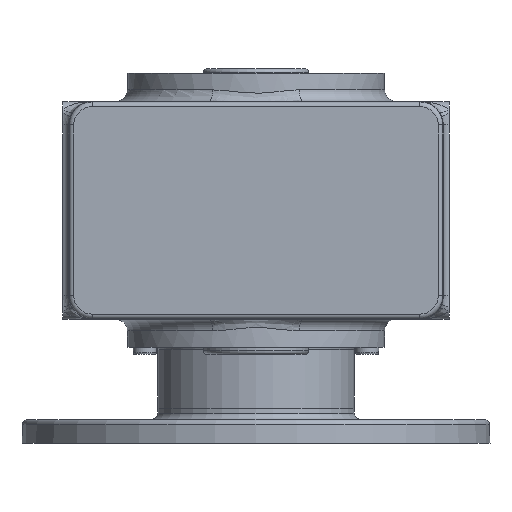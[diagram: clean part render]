
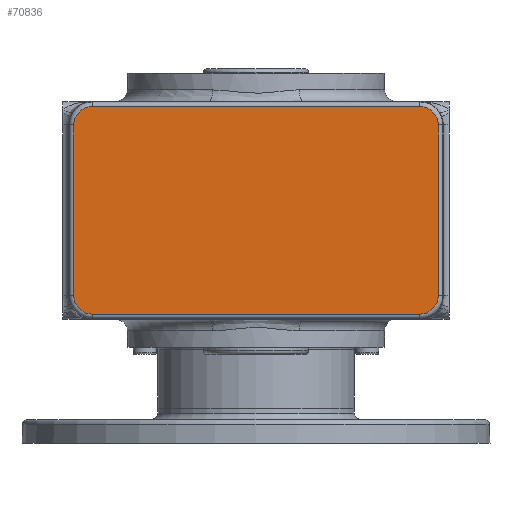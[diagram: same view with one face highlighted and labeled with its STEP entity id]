
A CAD part, front view. The second image highlights one B-rep face of the part: STEP entity #70836.
In plain terms, the highlighted planar face has unit normal (0, -1, 0).
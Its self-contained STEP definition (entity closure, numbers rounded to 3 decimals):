
#1410 = ORIENTED_EDGE ( 'NONE', *, *, #1411, .T. ) ;
#1411 = EDGE_CURVE ( 'NONE', #1473, #1470, #38919, .T. ) ;
#1412 = EDGE_CURVE ( 'NONE', #1479, #1473, #39125, .T. ) ;
#1422 = EDGE_CURVE ( 'NONE', #1470, #1423, #39092, .T. ) ;
#1423 = VERTEX_POINT ( 'NONE', #39073 ) ;
#1457 = ORIENTED_EDGE ( 'NONE', *, *, #1481, .T. ) ;
#1458 = ORIENTED_EDGE ( 'NONE', *, *, #1459, .T. ) ;
#1459 = EDGE_CURVE ( 'NONE', #1462, #1460, #45099, .T. ) ;
#1460 = VERTEX_POINT ( 'NONE', #45088 ) ;
#1461 = EDGE_CURVE ( 'NONE', #1469, #1462, #45080, .T. ) ;
#1462 = VERTEX_POINT ( 'NONE', #45073 ) ;
#1464 = ORIENTED_EDGE ( 'NONE', *, *, #1461, .T. ) ;
#1467 = ORIENTED_EDGE ( 'NONE', *, *, #1468, .T. ) ;
#1468 = EDGE_CURVE ( 'NONE', #1423, #1469, #45195, .T. ) ;
#1469 = VERTEX_POINT ( 'NONE', #45187 ) ;
#1470 = VERTEX_POINT ( 'NONE', #45184 ) ;
#1473 = VERTEX_POINT ( 'NONE', #45164 ) ;
#1474 = ORIENTED_EDGE ( 'NONE', *, *, #1412, .T. ) ;
#1475 = ORIENTED_EDGE ( 'NONE', *, *, #1476, .T. ) ;
#1476 = EDGE_CURVE ( 'NONE', #1483, #1479, #45153, .T. ) ;
#1479 = VERTEX_POINT ( 'NONE', #45139 ) ;
#1481 = EDGE_CURVE ( 'NONE', #1460, #1483, #45131, .T. ) ;
#1483 = VERTEX_POINT ( 'NONE', #45327 ) ;
#38910 = DIRECTION ( 'NONE',  ( 0., 0., -1. ) ) ;
#38913 = DIRECTION ( 'NONE',  ( 0., -1., 0. ) ) ;
#38916 = CARTESIAN_POINT ( 'NONE',  ( 70., -74.5, 10. ) ) ;
#38918 = AXIS2_PLACEMENT_3D ( 'NONE', #38916, #38913, #38910 ) ;
#38919 = CIRCLE ( 'NONE', #38918, 7.86 ) ;
#39073 = CARTESIAN_POINT ( 'NONE',  ( 77.86, -74.5, 83. ) ) ;
#39077 = DIRECTION ( 'NONE',  ( 0., 0., 1. ) ) ;
#39078 = VECTOR ( 'NONE', #39077, 1000. ) ;
#39080 = CARTESIAN_POINT ( 'NONE',  ( 77.86, -74.5, 83. ) ) ;
#39092 = LINE ( 'NONE', #39080, #39078 ) ;
#39119 = DIRECTION ( 'NONE',  ( 1., 0., 0. ) ) ;
#39121 = VECTOR ( 'NONE', #39119, 1000. ) ;
#39123 = CARTESIAN_POINT ( 'NONE',  ( 70., -74.5, 2.14 ) ) ;
#39125 = LINE ( 'NONE', #39123, #39121 ) ;
#45073 = CARTESIAN_POINT ( 'NONE',  ( -70., -74.5, 90.86 ) ) ;
#45076 = DIRECTION ( 'NONE',  ( -1., 0., 0. ) ) ;
#45077 = VECTOR ( 'NONE', #45076, 1000. ) ;
#45078 = CARTESIAN_POINT ( 'NONE',  ( -70., -74.5, 90.86 ) ) ;
#45080 = LINE ( 'NONE', #45078, #45077 ) ;
#45088 = CARTESIAN_POINT ( 'NONE',  ( -77.86, -74.5, 83. ) ) ;
#45091 = DIRECTION ( 'NONE',  ( 0., 0., -1. ) ) ;
#45093 = DIRECTION ( 'NONE',  ( 0., -1., 0. ) ) ;
#45096 = AXIS2_PLACEMENT_3D ( 'NONE', #45116, #45093, #45091 ) ;
#45099 = CIRCLE ( 'NONE', #45096, 7.86 ) ;
#45116 = CARTESIAN_POINT ( 'NONE',  ( -70., -74.5, 83. ) ) ;
#45126 = DIRECTION ( 'NONE',  ( 0., 0., -1. ) ) ;
#45128 = VECTOR ( 'NONE', #45126, 1000. ) ;
#45130 = CARTESIAN_POINT ( 'NONE',  ( -77.86, -74.5, 10. ) ) ;
#45131 = LINE ( 'NONE', #45130, #45128 ) ;
#45139 = CARTESIAN_POINT ( 'NONE',  ( -70., -74.5, 2.14 ) ) ;
#45143 = DIRECTION ( 'NONE',  ( 0., 0., -1. ) ) ;
#45146 = DIRECTION ( 'NONE',  ( 0., -1., 0. ) ) ;
#45148 = CARTESIAN_POINT ( 'NONE',  ( -70., -74.5, 10. ) ) ;
#45150 = AXIS2_PLACEMENT_3D ( 'NONE', #45148, #45146, #45143 ) ;
#45153 = CIRCLE ( 'NONE', #45150, 7.86 ) ;
#45164 = CARTESIAN_POINT ( 'NONE',  ( 70., -74.5, 2.14 ) ) ;
#45184 = CARTESIAN_POINT ( 'NONE',  ( 77.86, -74.5, 10. ) ) ;
#45187 = CARTESIAN_POINT ( 'NONE',  ( 70., -74.5, 90.86 ) ) ;
#45189 = DIRECTION ( 'NONE',  ( 0., 0., -1. ) ) ;
#45191 = DIRECTION ( 'NONE',  ( 0., -1., 0. ) ) ;
#45193 = AXIS2_PLACEMENT_3D ( 'NONE', #45214, #45191, #45189 ) ;
#45195 = CIRCLE ( 'NONE', #45193, 7.86 ) ;
#45214 = CARTESIAN_POINT ( 'NONE',  ( 70., -74.5, 83. ) ) ;
#45327 = CARTESIAN_POINT ( 'NONE',  ( -77.86, -74.5, 10. ) ) ;
#69681 = DIRECTION ( 'NONE',  ( 0., 0., -1. ) ) ;
#69682 = DIRECTION ( 'NONE',  ( 0., -1., 0. ) ) ;
#69683 = CARTESIAN_POINT ( 'NONE',  ( 70., -74.5, 10. ) ) ;
#69684 = AXIS2_PLACEMENT_3D ( 'NONE', #69683, #69682, #69681 ) ;
#69685 = PLANE ( 'NONE',  #69684 ) ;
#69686 = FACE_OUTER_BOUND ( 'NONE', #70837, .T. ) ;
#70826 = ORIENTED_EDGE ( 'NONE', *, *, #1422, .T. ) ;
#70836 = ADVANCED_FACE ( 'NONE', ( #69686 ), #69685, .T. ) ;
#70837 = EDGE_LOOP ( 'NONE', ( #70826, #1467, #1464, #1458, #1457, #1475, #1474, #1410 ) ) ;
